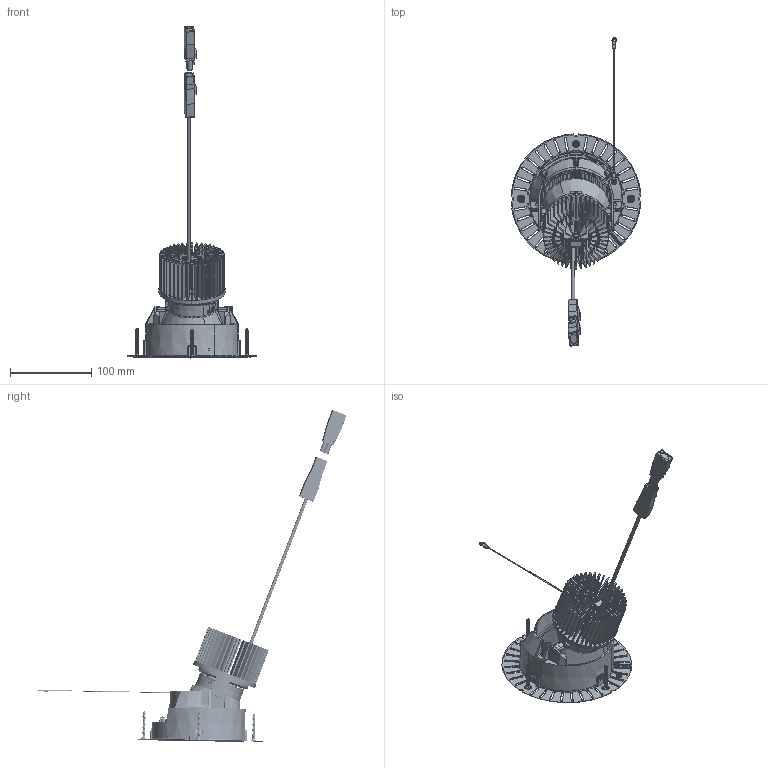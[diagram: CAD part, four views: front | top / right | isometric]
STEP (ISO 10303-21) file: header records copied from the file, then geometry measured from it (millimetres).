
FILE_DESCRIPTION((''),'2;1');
FILE_NAME('MOOD_PRO_LWW_ROUND_TRIMLESS_ASM','2020-09-03T',('Administrator'),(''),'PRO/ENGINEER BY PARAMETRIC TECHNOLOGY CORPORATION, 2001280','PRO/ENGINEER BY PARAMETRIC TECHNOLOGY CORPORATION, 2001280','');
FILE_SCHEMA(('CONFIG_CONTROL_DESIGN'));
Length unit declared in the file: millimetre
Products named in the file (42): 1_35263_00_0_1; 1_34839_00_0_1; 1_39931_02_0_2; 1_32729_00_0_1; 1_22047_00_0_1; 1_40486_00_0_1; 1_29173_02_0_ASM_1_ASM; 1_40487_0000_00_0_ASM_1_ASM; 1_40879_00_0_ASM_2_ASM; X_ZG14K_00_0_ASM_1_ASM; MOOD_M_WW_ZG14K_ASM_5_ASM; 3_53337; 1_01398; 1_01068; 3_28505_1; 3_28506_1; 1_45335; 1_45336; MOOD_PRO_LWW_LAMPASS_ASM; 1_40633_02_0_1; 1_40783_00_0_1; 1_31574_00_0_1; 1_23490_00_0_1; 1_40956_00_0_2; 1_38565_00_0_1; 1_40872_00_0_2; 1_40962_00_0_1; 1_40870_00_0_ASM_1_ASM; 3_40876_01_0_2; 1_40878_00_0_1; 1_41918_00_0_ASM_1_ASM; 1_41205_00_0_1; 1_40874_00_0_ASM_1_ASM; 1_31783_03_0_1; 1_40879_00_0_ASM_3_ASM; X_RG14K_00_0_ASM_2_ASM; RG14K-D110-WW_ASM_1_ASM; MOOD_PRO_LWW_FLANGTRIM_ASM_6_ASM; 3_40865; 1_38486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
Assembly tree (69 placements, depth 8):
  MOOD_PRO_LWW_ROUND_TRIMLESS_ASM
    MOOD_PRO_LWW_LAMPASS_ASM
      MOOD_M_WW_ZG14K_ASM_5_ASM
        X_ZG14K_00_0_ASM_1_ASM
          1_40879_00_0_ASM_2_ASM
            1_35263_00_0_1
            1_34839_00_0_1  x2
            1_39931_02_0_2
            1_32729_00_0_1  x4
            1_22047_00_0_1
            1_40487_0000_00_0_ASM_1_ASM
              1_40486_00_0_1
              1_29173_02_0_ASM_1_ASM  x2
      3_53337
      1_01398  x2
      1_01068  x2
      3_28505_1
      3_28506_1
      1_45335
      1_45336
    MOOD_PRO_LWW_FLANGTRIMLESS_ASM
      MOOD_PRO_LWW_FLANGTRIM_ASM_6_ASM
        RG14K-D110-WW_ASM_1_ASM
          X_RG14K_00_0_ASM_2_ASM
            1_40870_00_0_ASM_1_ASM
              1_40633_02_0_1  x2
              1_40783_00_0_1
              1_31574_00_0_1
              1_23490_00_0_1
              1_40956_00_0_2  x2
              1_38565_00_0_1  x2
              1_40872_00_0_2
              1_40962_00_0_1  x2
            1_40874_00_0_ASM_1_ASM
              1_41918_00_0_ASM_1_ASM
                3_40876_01_0_2
                1_40878_00_0_1
              1_40783_00_0_1  x3
              1_41205_00_0_1
              1_23490_00_0_1
              1_34839_00_0_1  x2
            1_40879_00_0_ASM_3_ASM
              1_34839_00_0_1  x2
              1_39931_02_0_2
              1_32729_00_0_1  x4
              1_40487_0000_00_0_ASM_1_ASM
                1_40486_00_0_1
                1_29173_02_0_ASM_1_ASM  x2
              1_31783_03_0_1
      3_40865
      1_38486  x4
Bounding box: 159.86 x 379.9 x 408.43 mm (x, y, z)
Volume: 186982.2 mm3; surface area: 254435.4 mm2
Topology: 51 solids, 56 shells, 8171 faces, 22219 edges, 14345 vertices
Faces by surface type: plane 6212, cylinder 953, bspline 438, cone 346, torus 170, sphere 52
Entity records: 236152 total; most frequent: CARTESIAN_POINT 73870, ORIENTED_EDGE 35285, DIRECTION 30526, EDGE_CURVE 17678, VECTOR 13098, LINE 13098, VERTEX_POINT 11453, AXIS2_PLACEMENT_3D 8714
